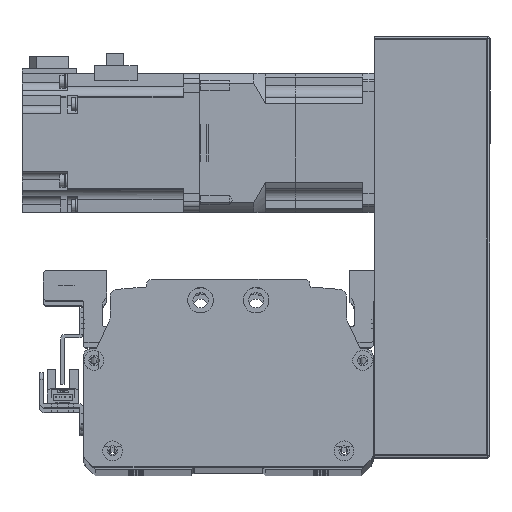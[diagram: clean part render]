
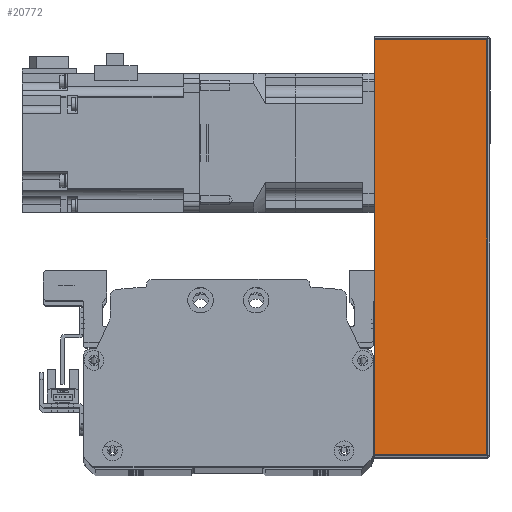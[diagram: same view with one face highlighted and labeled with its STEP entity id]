
A CAD part, top view. The second image highlights one B-rep face of the part: STEP entity #20772.
In plain terms, the highlighted planar face has unit normal (0, 0, 1) as drawn and (0, -1, 0) by its records, which use the part's own axes.
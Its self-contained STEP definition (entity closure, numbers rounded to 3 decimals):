
#563=PLANE('',#22807);
#1778=LINE('',#33888,#3402);
#1792=LINE('',#33940,#3416);
#1794=LINE('',#33948,#3418);
#1795=LINE('',#33950,#3419);
#3402=VECTOR('',#27553,10.);
#3416=VECTOR('',#27613,10.);
#3418=VECTOR('',#27627,10.);
#3419=VECTOR('',#27630,10.);
#5840=FACE_OUTER_BOUND('',#7336,.T.);
#7336=EDGE_LOOP('',(#17264,#17265,#17266,#17267));
#10244=VERTEX_POINT('',#33885);
#10245=VERTEX_POINT('',#33887);
#10259=VERTEX_POINT('',#33935);
#10260=VERTEX_POINT('',#33938);
#12708=EDGE_CURVE('',#10245,#10244,#1778,.T.);
#12736=EDGE_CURVE('',#10259,#10260,#1792,.T.);
#12740=EDGE_CURVE('',#10260,#10245,#1794,.T.);
#12741=EDGE_CURVE('',#10244,#10259,#1795,.T.);
#17264=ORIENTED_EDGE('',*,*,#12736,.T.);
#17265=ORIENTED_EDGE('',*,*,#12740,.T.);
#17266=ORIENTED_EDGE('',*,*,#12708,.T.);
#17267=ORIENTED_EDGE('',*,*,#12741,.T.);
#20772=ADVANCED_FACE('',(#5840),#563,.F.);
#22807=AXIS2_PLACEMENT_3D('',#33949,#27628,#27629);
#27553=DIRECTION('',(1.,0.,0.));
#27613=DIRECTION('',(-1.,0.,0.));
#27627=DIRECTION('',(0.,0.,-1.));
#27628=DIRECTION('center_axis',(0.,1.,0.));
#27629=DIRECTION('ref_axis',(1.,0.,0.));
#27630=DIRECTION('',(0.,0.,1.));
#33885=CARTESIAN_POINT('',(90.,-38.,-25.));
#33887=CARTESIAN_POINT('',(-90.,-38.,-25.));
#33888=CARTESIAN_POINT('',(91.,-38.,-25.));
#33935=CARTESIAN_POINT('',(90.,-38.,24.));
#33938=CARTESIAN_POINT('',(-90.,-38.,24.));
#33940=CARTESIAN_POINT('',(-45.5,-38.,24.));
#33948=CARTESIAN_POINT('',(-90.,-38.,0.));
#33949=CARTESIAN_POINT('Origin',(-91.,-38.,0.));
#33950=CARTESIAN_POINT('',(90.,-38.,0.));
